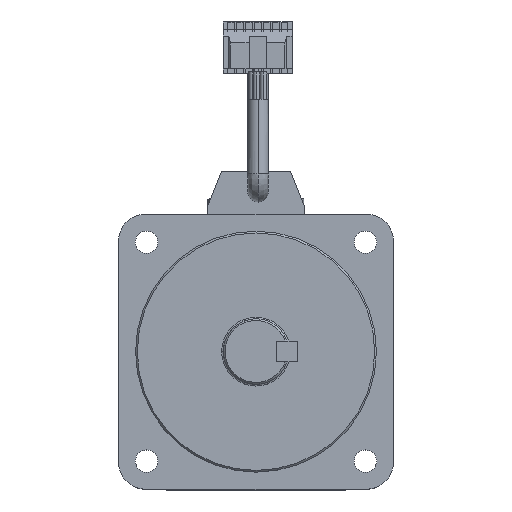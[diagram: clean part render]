
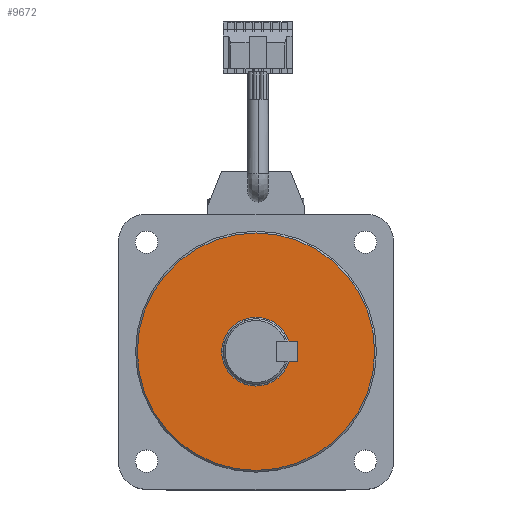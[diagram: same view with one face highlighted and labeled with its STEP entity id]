
A CAD part, top view. The second image highlights one B-rep face of the part: STEP entity #9672.
In plain terms, the highlighted planar face has unit normal (0, 0, 1).
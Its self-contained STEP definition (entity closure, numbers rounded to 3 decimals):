
#134 = AXIS2_PLACEMENT_3D ( 'NONE', #14741, #4743, #16406 ) ;
#1864 = ORIENTED_EDGE ( 'NONE', *, *, #18738, .F. ) ;
#2363 = CIRCLE ( 'NONE', #8774, 34.5 ) ;
#2516 = VERTEX_POINT ( 'NONE', #20017 ) ;
#2898 = CIRCLE ( 'NONE', #12031, 34.5 ) ;
#3490 = EDGE_CURVE ( 'NONE', #6781, #5261, #2898, .T. ) ;
#4108 = ORIENTED_EDGE ( 'NONE', *, *, #3490, .T. ) ;
#4743 = DIRECTION ( 'NONE',  ( 0., 0., 1. ) ) ;
#5261 = VERTEX_POINT ( 'NONE', #7794 ) ;
#5762 = CARTESIAN_POINT ( 'NONE',  ( 74.5, 40., 13.3 ) ) ;
#6150 = PLANE ( 'NONE',  #17009 ) ;
#6781 = VERTEX_POINT ( 'NONE', #5762 ) ;
#7462 = DIRECTION ( 'NONE',  ( 0., 0., 1. ) ) ;
#7553 = DIRECTION ( 'NONE',  ( 0., 0., 1. ) ) ;
#7794 = CARTESIAN_POINT ( 'NONE',  ( 5.5, 40., 13.3 ) ) ;
#8574 = ORIENTED_EDGE ( 'NONE', *, *, #9184, .T. ) ;
#8774 = AXIS2_PLACEMENT_3D ( 'NONE', #8944, #20664, #10622 ) ;
#8859 = CIRCLE ( 'NONE', #10574, 10. ) ;
#8944 = CARTESIAN_POINT ( 'NONE',  ( 40., 40., 13.3 ) ) ;
#9184 = EDGE_CURVE ( 'NONE', #5261, #6781, #2363, .T. ) ;
#9505 = DIRECTION ( 'NONE',  ( 0., 0., 1. ) ) ;
#9672 = ADVANCED_FACE ( 'NONE', ( #19056, #19581 ), #6150, .T. ) ;
#10574 = AXIS2_PLACEMENT_3D ( 'NONE', #17461, #7462, #19157 ) ;
#10622 = DIRECTION ( 'NONE',  ( 1., 0., 0. ) ) ;
#11820 = EDGE_LOOP ( 'NONE', ( #1864, #16700 ) ) ;
#11848 = VERTEX_POINT ( 'NONE', #20191 ) ;
#12031 = AXIS2_PLACEMENT_3D ( 'NONE', #17570, #7553, #19269 ) ;
#14099 = CIRCLE ( 'NONE', #134, 10. ) ;
#14126 = CARTESIAN_POINT ( 'NONE',  ( 40., 40., 13.3 ) ) ;
#14741 = CARTESIAN_POINT ( 'NONE',  ( 40., 40., 13.3 ) ) ;
#16406 = DIRECTION ( 'NONE',  ( 1., 0., 0. ) ) ;
#16700 = ORIENTED_EDGE ( 'NONE', *, *, #18959, .F. ) ;
#17009 = AXIS2_PLACEMENT_3D ( 'NONE', #14126, #9505, #21214 ) ;
#17461 = CARTESIAN_POINT ( 'NONE',  ( 40., 40., 13.3 ) ) ;
#17570 = CARTESIAN_POINT ( 'NONE',  ( 40., 40., 13.3 ) ) ;
#18286 = EDGE_LOOP ( 'NONE', ( #8574, #4108 ) ) ;
#18738 = EDGE_CURVE ( 'NONE', #2516, #11848, #8859, .T. ) ;
#18959 = EDGE_CURVE ( 'NONE', #11848, #2516, #14099, .T. ) ;
#19056 = FACE_OUTER_BOUND ( 'NONE', #18286, .T. ) ;
#19157 = DIRECTION ( 'NONE',  ( 1., 0., 0. ) ) ;
#19269 = DIRECTION ( 'NONE',  ( 1., 0., 0. ) ) ;
#19581 = FACE_BOUND ( 'NONE', #11820, .T. ) ;
#20017 = CARTESIAN_POINT ( 'NONE',  ( 30., 40., 13.3 ) ) ;
#20191 = CARTESIAN_POINT ( 'NONE',  ( 50., 40., 13.3 ) ) ;
#20664 = DIRECTION ( 'NONE',  ( 0., 0., 1. ) ) ;
#21214 = DIRECTION ( 'NONE',  ( 1., 0., 0. ) ) ;
